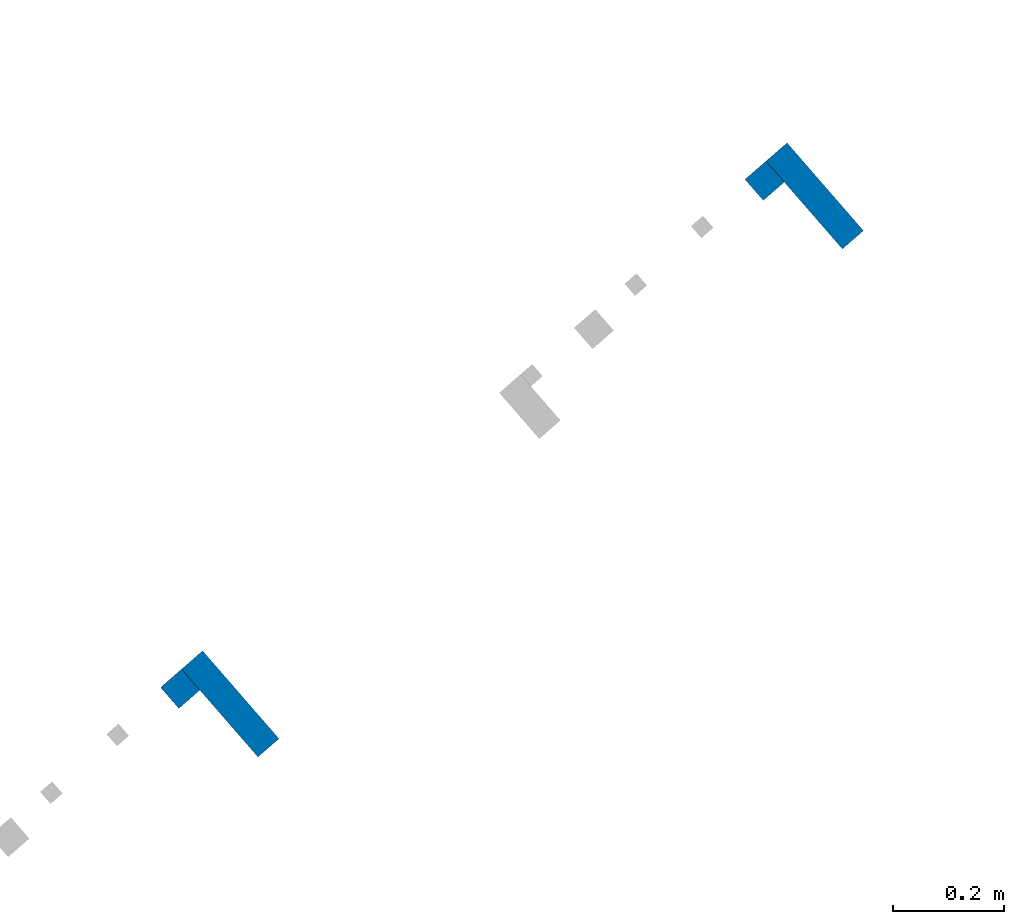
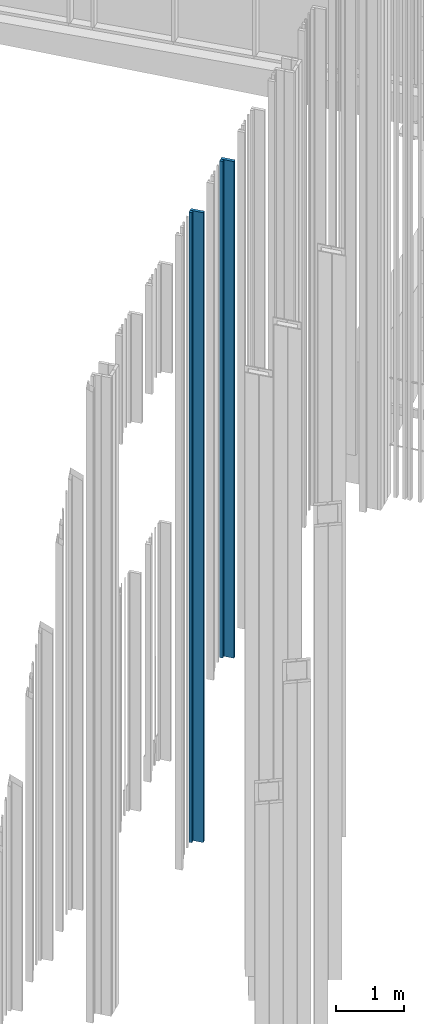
# One storey, part 263 of 390: 4 walls.
"""IFC2X3 building model written with IfcOpenShell, lengths in millimetres."""

from ifc_helpers import new_model, entity, si_unit, converted_unit, derived_unit, money_unit, direction, frame, origin_with_axes, place, context, subcontext, project, spatial, faceted_brep, material, type_object, element, save


model = new_model("IFC2X3")

# Units and contexts
model_context = context("Model", 3, precision=1e-05, world=origin_with_axes(), true_north=direction((0.0, 1.0)))
body_context = subcontext(model_context, "Body", "Model", "MODEL_VIEW")
ifc_project = project(units=[si_unit("LENGTHUNIT", "METRE", prefix="MILLI"), si_unit("AREAUNIT", "SQUARE_METRE"), si_unit("VOLUMEUNIT", "CUBIC_METRE"), converted_unit("PLANEANGLEUNIT", "DEGREE", entity("IfcPlaneAngleMeasure", 0.0174532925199), si_unit("PLANEANGLEUNIT", "RADIAN"), dimensions=[0, 0, 0, 0, 0, 0, 0]), si_unit("SOLIDANGLEUNIT", "STERADIAN"), money_unit("EUR"), converted_unit("TIMEUNIT", "Year", entity("IfcTimeMeasure", 31556926.0), si_unit("TIMEUNIT", "SECOND"), dimensions=[0, 0, 1, 0, 0, 0, 0]), si_unit("MASSUNIT", "GRAM", prefix="KILO"), si_unit("THERMODYNAMICTEMPERATUREUNIT", "DEGREE_CELSIUS"), si_unit("LUMINOUSINTENSITYUNIT", "LUMEN"), si_unit("ENERGYUNIT", "JOULE", prefix="MEGA"), derived_unit("THERMALCONDUCTANCEUNIT", [(si_unit("POWERUNIT", "WATT"), 1), (si_unit("LENGTHUNIT", "METRE"), -1), (si_unit("THERMODYNAMICTEMPERATUREUNIT", "KELVIN"), -1)]), derived_unit("SPECIFICHEATCAPACITYUNIT", [(si_unit("ENERGYUNIT", "JOULE"), 1), (si_unit("MASSUNIT", "GRAM", prefix="KILO"), -1), (si_unit("THERMODYNAMICTEMPERATUREUNIT", "KELVIN"), -1)]), derived_unit("MASSDENSITYUNIT", [(si_unit("MASSUNIT", "GRAM", prefix="KILO"), 1), (si_unit("VOLUMEUNIT", "CUBIC_METRE"), -1)])], contexts=[model_context])

# Site, building, storey
site_placement = place(None, origin_with_axes())
site = spatial("IfcSite", under=ifc_project, at=site_placement, Name="Site", CompositionType="ELEMENT")
building_placement = place(site_placement, origin_with_axes())
building = spatial("IfcBuilding", under=site, at=building_placement, Name="Building", CompositionType="ELEMENT")
storey_placement = place(building_placement, origin_with_axes())
storey = spatial("IfcBuildingStorey", under=building, at=storey_placement, Name="1 korrus", CompositionType="ELEMENT", Elevation=0.0)

# Walls
ifc_material = material(Name="Site specified")
wall_type = type_object("IfcWallType", Name="Puitfassaadi ribistik", PredefinedType="NOTDEFINED")
wall_1_placement = place(storey_placement, frame((167408.789881, 90156.8574934, 935.0), z_axis=(0.0, 0.0, 1.0), x_axis=(-0.754709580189, -0.65605902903, 0.0)))
element("IfcWall", 1, at=wall_1_placement, inside=storey, type_object=wall_type, material=ifc_material, Name="Site specified", context=body_context, shape_type="Brep", body=[
    faceted_brep([(-25.0, -25.0, 8930.0), (-25.0, -25.0, 0.0), (25.0, -25.0, 0.0), (25.0, -25.0, 8930.0), (-25.0, 25.0, 8930.0), (-25.0, 25.0, 0.0), (25.0, 25.0, 0.0), (25.0, 25.0, 8930.0)], [[[0, 1, 2, 3]], [[4, 5, 1, 0]], [[2, 1, 5, 6]], [[3, 2, 6, 7]], [[4, 0, 3, 7]], [[7, 6, 5, 4]]]),
])
wall_2_placement = place(storey_placement, frame((167498.682053, 90129.6610333, 935.0), z_axis=(0.0, 0.0, 1.0), x_axis=(-0.754709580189, -0.65605902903, 0.0)))
element("IfcWall", 2, at=wall_2_placement, inside=storey, type_object=wall_type, material=ifc_material, Name="Site specified", context=body_context, shape_type="Brep", body=[
    faceted_brep([(-25.0, -104.5, 8930.0), (-25.0, -104.5, 0.0), (25.0, -104.5, 0.0), (25.0, -104.5, 8930.0), (-25.0, 104.5, 8930.0), (-25.0, 104.5, 0.0), (25.0, 104.5, 0.0), (25.0, 104.5, 8930.0)], [[[0, 1, 2, 3]], [[4, 5, 1, 0]], [[2, 1, 5, 6]], [[3, 2, 6, 7]], [[4, 0, 3, 7]], [[7, 6, 5, 4]]]),
])
wall_3_placement = place(storey_placement, frame((166449.635494, 89217.7387714, -1459.01709558), z_axis=(0.0, 0.0, 1.0), x_axis=(-0.754709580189, -0.65605902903, 0.0)))
element("IfcWall", 3, at=wall_3_placement, inside=storey, type_object=wall_type, material=ifc_material, Name="Site specified", context=body_context, shape_type="Brep", body=[
    faceted_brep([(-25.0, -104.5, 11324.0170956), (-25.0, -104.5, 0.0), (25.0, -104.5, 0.0), (25.0, -104.5, 11324.0170956), (-25.0, 104.5, 11324.0170956), (-25.0, 104.5, 0.0), (25.0, 104.5, 0.0), (25.0, 104.5, 11324.0170956)], [[[0, 1, 2, 3]], [[4, 5, 1, 0]], [[2, 1, 5, 6]], [[3, 2, 6, 7]], [[4, 0, 3, 7]], [[7, 6, 5, 4]]]),
])
wall_4_placement = place(storey_placement, frame((166359.743322, 89244.9352316, -1464.95128251), z_axis=(0.0, 0.0, 1.0), x_axis=(-0.754709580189, -0.65605902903, 0.0)))
element("IfcWall", 4, at=wall_4_placement, inside=storey, type_object=wall_type, material=ifc_material, Name="Site specified", context=body_context, shape_type="Brep", body=[
    faceted_brep([(-25.0, -25.0, 11329.9512825), (-25.0, -25.0, 0.0), (25.0, -25.0, 0.0), (25.0, -25.0, 11329.9512825), (-25.0, 25.0, 11329.9512825), (-25.0, 25.0, 0.0), (25.0, 25.0, 0.0), (25.0, 25.0, 11329.9512825)], [[[0, 1, 2, 3]], [[4, 5, 1, 0]], [[2, 1, 5, 6]], [[3, 2, 6, 7]], [[4, 0, 3, 7]], [[7, 6, 5, 4]]]),
])

save(model, "model.ifc")
